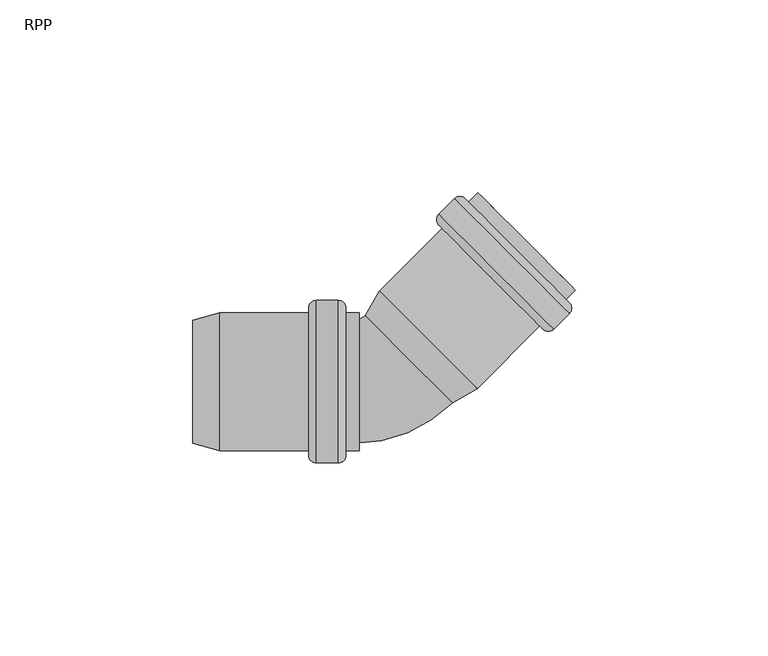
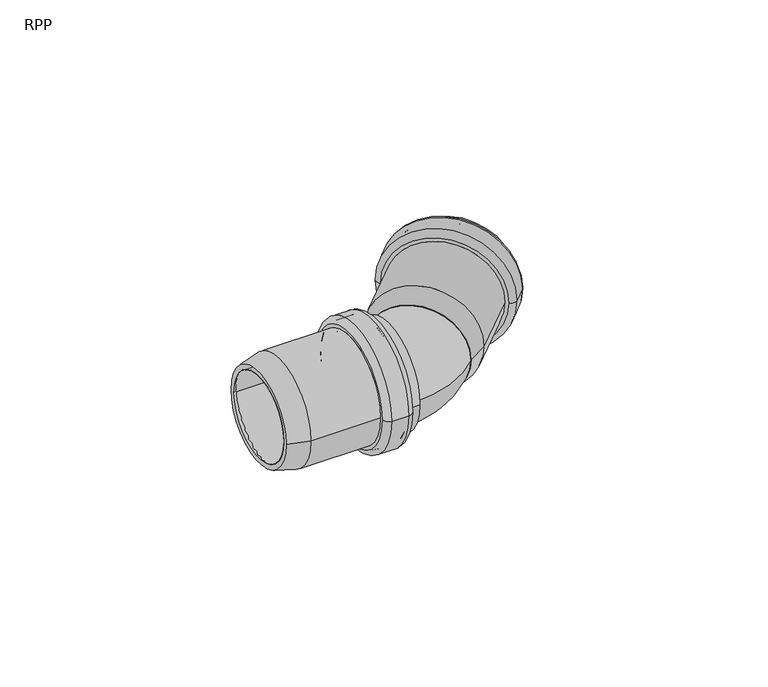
"""IFC4 building model written with IfcOpenShell, lengths in millimetres: pipe fitting geometry, RAUPIANO PLUS Bend : RPP."""

from ifc_helpers import new_model, si_unit, point, frame, origin, place, context, project, spatial, polyline, circle_curve, ellipse_curve, trimmed, source, transform, mapped, element, save
from ifc_brep_helpers import plane_surface, cylinder_surface, revolved_surface, advanced_brep


def rpp_84a9ba76(model_context):
    return source(origin(), model_context, "Body", "AdvancedBrep", [
        advanced_brep(
        [(-18.5842712, -16.3, 0.0), (-18.5842712, 16.3, 0.0), (-42.9827307, 16.3, 0.0), (-42.9827307, -16.3, 0.0), (-18.0842712, -19.5, 0.0), (-18.0842712, 19.5, 0.0), (-18.5842712, 19.0, 0.0), (-18.5842712, -19.0, 0.0), (-12.5842712, -19.5, 0.0), (-12.5842712, 19.5, 0.0), (-12.0842712, -19.0, 0.0), (-12.0842712, 19.0, 0.0), (-7.0842712, -16.3, 0.0), (-7.0842712, 16.3, 0.0), (-12.0842712, 16.3, 0.0), (-12.0842712, -16.3, 0.0), (-10.4842712, -17.9, 0.0), (-10.4842712, 17.9, 0.0), (-7.0842712, 17.9, 0.0), (-7.0842712, -17.9, 0.0), (-12.4842712, -21.1, 0.0), (-12.4842712, 21.1, 0.0), (-10.4842712, 19.1, 0.0), (-10.4842712, -19.1, 0.0), (-18.1842712, -21.1, 0.0), (-18.1842712, 21.1, 0.0), (-20.1842712, -19.1, 0.0), (-20.1842712, 19.1, 0.0), (-43.1933747, -17.9, 0.0), (-43.1933747, 17.9, 0.0), (-20.1842712, 17.9, 0.0), (-20.1842712, -17.9, 0.0), (-50.2842712, -16.0, 0.0), (-50.2842712, 16.0, 0.0), (-50.2842712, 14.3435581, 0.0), (-50.2842712, -14.3435581, 0.0)],
        [
            (0, 1, circle_curve(frame((-18.5842712, 0.0, 0.0), z_axis=(1.0, 0.0, 0.0), x_axis=(0.0, 1.0, 0.0)), 16.3)),
            (1, 2),
            (2, 3, circle_curve(frame((-42.9827307, 0.0, 0.0), z_axis=(-1.0, 0.0, 0.0), x_axis=(0.0, 1.0, 0.0)), 16.3)),
            (3, 0),
            (4, 5, circle_curve(frame((-18.0842712, 0.0, 0.0), z_axis=(1.0, 0.0, 0.0), x_axis=(0.0, 1.0, 0.0)), 19.5)),
            (5, 6, circle_curve(frame((-18.0842712, 19.0, 0.0), z_axis=(0.0, 0.0, 1.0), x_axis=(0.0, -1.0, 0.0)), 0.5)),
            (6, 7, circle_curve(frame((-18.5842712, 0.0, 0.0), z_axis=(-1.0, 0.0, 0.0), x_axis=(0.0, 1.0, 0.0)), 19.0)),
            (7, 4, circle_curve(frame((-18.0842712, -19.0, 0.0), z_axis=(0.0, 0.0, 1.0), x_axis=(0.0, 1.0, 0.0)), 0.5)),
            (8, 9, circle_curve(frame((-12.5842712, 0.0, 0.0), z_axis=(1.0, 0.0, 0.0), x_axis=(0.0, 1.0, 0.0)), 19.5)),
            (9, 5),
            (4, 8),
            (10, 11, circle_curve(frame((-12.0842712, 0.0, 0.0), z_axis=(1.0, 0.0, 0.0), x_axis=(0.0, 1.0, 0.0)), 19.0)),
            (11, 9, circle_curve(frame((-12.5842712, 19.0, 0.0), z_axis=(0.0, 0.0, 1.0), x_axis=(0.0, -1.0, 0.0)), 0.5)),
            (8, 10, circle_curve(frame((-12.5842712, -19.0, 0.0), z_axis=(0.0, 0.0, 1.0), x_axis=(0.0, 1.0, 0.0)), 0.5)),
            (12, 13, circle_curve(frame((-7.0842712, 0.0, 0.0), z_axis=(1.0, 0.0, 0.0), x_axis=(0.0, 1.0, 0.0)), 16.3)),
            (13, 14),
            (14, 15, circle_curve(frame((-12.0842712, 0.0, 0.0), z_axis=(-1.0, 0.0, 0.0), x_axis=(0.0, 1.0, 0.0)), 16.3)),
            (15, 12),
            (16, 17, circle_curve(frame((-10.4842712, 0.0, 0.0), z_axis=(1.0, 0.0, 0.0), x_axis=(0.0, 1.0, 0.0)), 17.9)),
            (17, 18),
            (18, 19, circle_curve(frame((-7.0842712, 0.0, 0.0), z_axis=(-1.0, 0.0, 0.0), x_axis=(0.0, 1.0, 0.0)), 17.9)),
            (19, 16),
            (20, 21, circle_curve(frame((-12.4842712, 0.0, 0.0), z_axis=(1.0, 0.0, 0.0), x_axis=(0.0, 1.0, 0.0)), 21.1)),
            (21, 22, circle_curve(frame((-12.4842712, 19.1, 0.0), z_axis=(0.0, 0.0, -1.0), x_axis=(0.0, -1.0, 0.0)), 2.0)),
            (22, 23, circle_curve(frame((-10.4842712, 0.0, 0.0), z_axis=(-1.0, 0.0, 0.0), x_axis=(0.0, 1.0, 0.0)), 19.1)),
            (23, 20, circle_curve(frame((-12.4842712, -19.1, 0.0), z_axis=(0.0, 0.0, -1.0), x_axis=(0.0, 1.0, 0.0)), 2.0)),
            (24, 25, circle_curve(frame((-18.1842712, 0.0, 0.0), z_axis=(1.0, 0.0, 0.0), x_axis=(0.0, 1.0, 0.0)), 21.1)),
            (25, 21),
            (20, 24),
            (26, 27, circle_curve(frame((-20.1842712, 0.0, 0.0), z_axis=(1.0, 0.0, 0.0), x_axis=(0.0, 1.0, 0.0)), 19.1)),
            (27, 25, circle_curve(frame((-18.1842712, 19.1, 0.0), z_axis=(0.0, 0.0, -1.0), x_axis=(0.0, -1.0, 0.0)), 2.0)),
            (24, 26, circle_curve(frame((-18.1842712, -19.1, 0.0), z_axis=(0.0, 0.0, -1.0), x_axis=(0.0, 1.0, 0.0)), 2.0)),
            (28, 29, circle_curve(frame((-43.1933747, 0.0, 0.0), z_axis=(1.0, 0.0, 0.0), x_axis=(0.0, 1.0, 0.0)), 17.9)),
            (29, 30),
            (30, 31, circle_curve(frame((-20.1842712, 0.0, 0.0), z_axis=(-1.0, 0.0, 0.0), x_axis=(0.0, 1.0, 0.0)), 17.9)),
            (31, 28),
            (32, 33, circle_curve(frame((-50.2842712, 0.0, 0.0), z_axis=(1.0, 0.0, 0.0), x_axis=(0.0, 1.0, 0.0)), 16.0)),
            (33, 29),
            (28, 32),
            (2, 34),
            (34, 35, circle_curve(frame((-50.2842712, 0.0, 0.0), z_axis=(-1.0, 0.0, 0.0), x_axis=(0.0, 1.0, 0.0)), 14.3435581)),
            (35, 3),
            (1, 0, circle_curve(frame((-18.5842712, 0.0, 0.0), z_axis=(1.0, 0.0, 0.0), x_axis=(0.0, -1.0, 0.0)), 16.3)),
            (3, 2, circle_curve(frame((-42.9827307, 0.0, 0.0), z_axis=(-1.0, 0.0, 0.0), x_axis=(0.0, -1.0, 0.0)), 16.3)),
            (6, 7, circle_curve(frame((-18.5842712, 0.0, 0.0), z_axis=(1.0, 0.0, 0.0), x_axis=(0.0, -1.0, 0.0)), 19.0)),
            (5, 4, circle_curve(frame((-18.0842712, 0.0, 0.0), z_axis=(1.0, 0.0, 0.0), x_axis=(0.0, -1.0, 0.0)), 19.5)),
            (9, 8, circle_curve(frame((-12.5842712, 0.0, 0.0), z_axis=(1.0, 0.0, 0.0), x_axis=(0.0, -1.0, 0.0)), 19.5)),
            (11, 10, circle_curve(frame((-12.0842712, 0.0, 0.0), z_axis=(1.0, 0.0, 0.0), x_axis=(0.0, -1.0, 0.0)), 19.0)),
            (14, 15, circle_curve(frame((-12.0842712, 0.0, 0.0), z_axis=(1.0, 0.0, 0.0), x_axis=(0.0, -1.0, 0.0)), 16.3)),
            (13, 12, circle_curve(frame((-7.0842712, 0.0, 0.0), z_axis=(1.0, 0.0, 0.0), x_axis=(0.0, -1.0, 0.0)), 16.3)),
            (18, 19, circle_curve(frame((-7.0842712, 0.0, 0.0), z_axis=(1.0, 0.0, 0.0), x_axis=(0.0, -1.0, 0.0)), 17.9)),
            (17, 16, circle_curve(frame((-10.4842712, 0.0, 0.0), z_axis=(1.0, 0.0, 0.0), x_axis=(0.0, -1.0, 0.0)), 17.9)),
            (22, 23, circle_curve(frame((-10.4842712, 0.0, 0.0), z_axis=(1.0, 0.0, 0.0), x_axis=(0.0, -1.0, 0.0)), 19.1)),
            (21, 20, circle_curve(frame((-12.4842712, 0.0, 0.0), z_axis=(1.0, 0.0, 0.0), x_axis=(0.0, -1.0, 0.0)), 21.1)),
            (25, 24, circle_curve(frame((-18.1842712, 0.0, 0.0), z_axis=(1.0, 0.0, 0.0), x_axis=(0.0, -1.0, 0.0)), 21.1)),
            (27, 26, circle_curve(frame((-20.1842712, 0.0, 0.0), z_axis=(1.0, 0.0, 0.0), x_axis=(0.0, -1.0, 0.0)), 19.1)),
            (30, 31, circle_curve(frame((-20.1842712, 0.0, 0.0), z_axis=(1.0, 0.0, 0.0), x_axis=(0.0, -1.0, 0.0)), 17.9)),
            (29, 28, circle_curve(frame((-43.1933747, 0.0, 0.0), z_axis=(1.0, 0.0, 0.0), x_axis=(0.0, -1.0, 0.0)), 17.9)),
            (33, 32, circle_curve(frame((-50.2842712, 0.0, 0.0), z_axis=(1.0, 0.0, 0.0), x_axis=(0.0, -1.0, 0.0)), 16.0)),
            (34, 35, circle_curve(frame((-50.2842712, 0.0, 0.0), z_axis=(1.0, 0.0, 0.0), x_axis=(0.0, -1.0, 0.0)), 14.3435581)),
        ],
        [
            revolved_surface(polyline([(-42.9827307, 16.3, 0.0), (-18.5842712, 16.3, 0.0)]), (-50.2842712, 0.0, 0.0), (-1.0, 0.0, 0.0)),
            revolved_surface(trimmed(ellipse_curve(frame((-18.0842712, 19.0, 0.0), z_axis=(0.0, 0.0, -1.0), x_axis=(0.0, -1.0, 0.0)), 0.5, 0.5), [point((-18.5842712, 19.0, 0.0))], [point((-18.0842712, 19.5, 0.0))], True, "CARTESIAN"), (-50.2842712, 0.0, 0.0), (-1.0, 0.0, 0.0)),
            revolved_surface(polyline([(-18.084271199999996, 19.5, 0.0), (-12.584271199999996, 19.5, 0.0)]), (-50.2842712, 0.0, 0.0), (-1.0, 0.0, 0.0)),
            revolved_surface(trimmed(ellipse_curve(frame((-12.5842712, 19.0, 0.0), z_axis=(0.0, 0.0, -1.0), x_axis=(0.0, -1.0, 0.0)), 0.5, 0.5), [point((-12.5842712, 19.5, 0.0))], [point((-12.0842712, 19.0, 0.0))], True, "CARTESIAN"), (-50.2842712, 0.0, 0.0), (-1.0, 0.0, 0.0)),
            revolved_surface(polyline([(-12.084271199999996, 16.3, 0.0), (-7.084271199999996, 16.3, 0.0)]), (-50.2842712, 0.0, 0.0), (-1.0, 0.0, 0.0)),
            cylinder_surface(frame((-50.2842712, 0.0, 0.0), z_axis=(-1.0, 0.0, 0.0), x_axis=(0.0, 1.0, 0.0)), 17.9),
            revolved_surface(trimmed(ellipse_curve(frame((-12.4842712, 19.1, 0.0), z_axis=(0.0, 0.0, 1.0), x_axis=(0.0, -1.0, 0.0)), 2.0, 2.0), [point((-10.4842712, 19.1, 0.0))], [point((-12.4842712, 21.1, 0.0))], True, "CARTESIAN"), (-50.2842712, 0.0, 0.0), (-1.0, 0.0, 0.0)),
            cylinder_surface(frame((-50.2842712, 0.0, 0.0), z_axis=(-1.0, 0.0, 0.0), x_axis=(0.0, 1.0, 0.0)), 21.1),
            revolved_surface(trimmed(ellipse_curve(frame((-18.1842712, 19.1, 0.0), z_axis=(0.0, 0.0, 1.0), x_axis=(0.0, -1.0, 0.0)), 2.0, 2.0), [point((-18.1842712, 21.1, 0.0))], [point((-20.1842712, 19.1, 0.0))], True, "CARTESIAN"), (-50.2842712, 0.0, 0.0), (-1.0, 0.0, 0.0)),
            revolved_surface(polyline([(-43.1933747, 17.9, 0.0), (-50.2842712, 16.0, 0.0)]), (-50.2842712, 0.0, 0.0), (-1.0, 0.0, 0.0)),
            revolved_surface(polyline([(-50.2842712, 14.3435581, 0.0), (-42.9827307, 16.3, 0.0)]), (-50.2842712, 0.0, 0.0), (-1.0, 0.0, 0.0)),
            revolved_surface(polyline([(-42.9827307, -16.3, 0.0), (-18.5842712, -16.3, 0.0)]), (-50.2842712, 0.0, 0.0), (-1.0, 0.0, 0.0)),
            plane_surface(frame((-18.5842712, 0.0, 0.0), z_axis=(1.0, 0.0, 0.0), x_axis=(0.0, -1.0, 0.0))),
            revolved_surface(trimmed(ellipse_curve(frame((-18.0842712, -19.0, 0.0), z_axis=(0.0, 0.0, 1.0), x_axis=(0.0, 1.0, 0.0)), 0.5, 0.5), [point((-18.5842712, -19.0, 0.0))], [point((-18.0842712, -19.5, 0.0))], True, "CARTESIAN"), (-50.2842712, 0.0, 0.0), (-1.0, 0.0, 0.0)),
            revolved_surface(polyline([(-18.084271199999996, -19.5, 0.0), (-12.584271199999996, -19.5, 0.0)]), (-50.2842712, 0.0, 0.0), (-1.0, 0.0, 0.0)),
            revolved_surface(trimmed(ellipse_curve(frame((-12.5842712, -19.0, 0.0), z_axis=(0.0, 0.0, 1.0), x_axis=(0.0, 1.0, 0.0)), 0.5, 0.5), [point((-12.5842712, -19.5, 0.0))], [point((-12.0842712, -19.0, 0.0))], True, "CARTESIAN"), (-50.2842712, 0.0, 0.0), (-1.0, 0.0, 0.0)),
            plane_surface(frame((-12.0842712, 0.0, 0.0), z_axis=(-1.0, 0.0, 0.0), x_axis=(0.0, -1.0, 0.0))),
            revolved_surface(polyline([(-12.084271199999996, -16.3, 0.0), (-7.084271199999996, -16.3, 0.0)]), (-50.2842712, 0.0, 0.0), (-1.0, 0.0, 0.0)),
            plane_surface(frame((-7.0842712, 0.0, 0.0), z_axis=(1.0, 0.0, 0.0), x_axis=(0.0, -1.0, 0.0))),
            cylinder_surface(frame((-50.2842712, 0.0, 0.0), z_axis=(-1.0, 0.0, 0.0), x_axis=(0.0, -1.0, 0.0)), 17.9),
            plane_surface(frame((-10.4842712, 0.0, 0.0), z_axis=(1.0, 0.0, 0.0), x_axis=(0.0, -1.0, 0.0))),
            revolved_surface(trimmed(ellipse_curve(frame((-12.4842712, -19.1, 0.0), z_axis=(0.0, 0.0, -1.0), x_axis=(0.0, 1.0, 0.0)), 2.0, 2.0), [point((-10.4842712, -19.1, 0.0))], [point((-12.4842712, -21.1, 0.0))], True, "CARTESIAN"), (-50.2842712, 0.0, 0.0), (-1.0, 0.0, 0.0)),
            cylinder_surface(frame((-50.2842712, 0.0, 0.0), z_axis=(-1.0, 0.0, 0.0), x_axis=(0.0, -1.0, 0.0)), 21.1),
            revolved_surface(trimmed(ellipse_curve(frame((-18.1842712, -19.1, 0.0), z_axis=(0.0, 0.0, -1.0), x_axis=(0.0, 1.0, 0.0)), 2.0, 2.0), [point((-18.1842712, -21.1, 0.0))], [point((-20.1842712, -19.1, 0.0))], True, "CARTESIAN"), (-50.2842712, 0.0, 0.0), (-1.0, 0.0, 0.0)),
            plane_surface(frame((-20.1842712, 0.0, 0.0), z_axis=(-1.0, 0.0, 0.0), x_axis=(0.0, -1.0, 0.0))),
            revolved_surface(polyline([(-43.1933747, -17.9, 0.0), (-50.2842712, -16.0, 0.0)]), (-50.2842712, 0.0, 0.0), (-1.0, 0.0, 0.0)),
            plane_surface(frame((-50.2842712, 0.0, 0.0), z_axis=(-1.0, 0.0, 0.0), x_axis=(0.0, -1.0, 0.0))),
            revolved_surface(polyline([(-50.2842712, -14.3435581, 0.0), (-42.9827307, -16.3, 0.0)]), (-50.2842712, 0.0, 0.0), (-1.0, 0.0, 0.0)),
        ],
        [
            (0, [[1, 2, 3, 4]]),
            (1, [[5, 6, 7, 8]]),
            (2, [[9, 10, -5, 11]]),
            (3, [[12, 13, -9, 14]]),
            (4, [[15, 16, 17, 18]]),
            (5, [[19, 20, 21, 22]]),
            (6, [[23, 24, 25, 26]]),
            (7, [[27, 28, -23, 29]]),
            (8, [[30, 31, -27, 32]]),
            (5, [[33, 34, 35, 36]]),
            (9, [[37, 38, -33, 39]]),
            (10, [[-3, 40, 41, 42]]),
            (11, [[43, -4, 44, -2]]),
            (12, [[45, -7], [-43, -1]]),
            (13, [[46, -8, -45, -6]]),
            (14, [[47, -11, -46, -10]]),
            (15, [[48, -14, -47, -13]]),
            (16, [[-48, -12], [49, -17]]),
            (17, [[50, -18, -49, -16]]),
            (18, [[51, -21], [-50, -15]]),
            (19, [[52, -22, -51, -20]]),
            (20, [[53, -25], [-52, -19]]),
            (21, [[54, -26, -53, -24]]),
            (22, [[55, -29, -54, -28]]),
            (23, [[56, -32, -55, -31]]),
            (24, [[-56, -30], [57, -35]]),
            (19, [[58, -36, -57, -34]]),
            (25, [[59, -39, -58, -38]]),
            (26, [[-59, -37], [60, -41]]),
            (27, [[-44, -42, -60, -40]]),
        ],
    ),
        advanced_brep(
        [(16.0002916, -4.2845628, 0.0), (-4.2845628, 16.0002916, 0.0), (-0.5050073, 22.5466737, 0.0), (22.5466737, -0.5050073, 0.0), (23.5290968, -1.785326, 0.0), (-1.785326, 23.5290968, 0.0), (-5.4558441, 17.1715729, 0.0), (17.1715729, -5.4558441, 0.0), (39.7989899, 14.4845671, 0.0), (14.4845671, 39.7989899, 0.0), (47.5064538, 17.6665476, 0.0), (17.6665476, 47.5064538, 0.0), (13.636039, 43.4759451, 0.0), (43.4759451, 13.636039, 0.0), (49.0620887, 23.7476659, 0.0), (23.7476659, 49.0620887, 0.0), (21.3435029, 46.6579257, 0.0), (46.6579257, 21.3435029, 0.0), (44.395184, 21.3435029, 0.0), (21.3435029, 44.395184, 0.0), (24.8790368, 47.9307179, 0.0), (47.9307179, 24.8790368, 0.0), (42.415285, 14.8381205, 0.0), (14.8381205, 42.415285, 0.0), (18.7272078, 46.3043723, 0.0), (46.3043723, 18.7272078, 0.0), (16.7473088, 39.7989899, 0.0), (39.7989899, 16.7473088, 0.0), (13.636039, 40.647518, 0.0), (40.647518, 13.636039, 0.0), (47.5064538, 20.4949747, 0.0), (20.4949747, 47.5064538, 0.0), (19.4343146, 46.3043723, 0.0), (46.3043723, 19.4343146, 0.0), (41.7081782, 14.8381205, 0.0), (14.8381205, 41.7081782, 0.0)],
        [
            (0, 1, circle_curve(frame((5.8578644, 5.8578644, 0.0), z_axis=(-0.7071067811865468, -0.7071067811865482, 0.0), x_axis=(-0.7071067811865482, 0.7071067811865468, 0.0)), 14.3435581)),
            (1, 2),
            (2, 3, circle_curve(frame((11.0208332, 11.0208332, 0.0), z_axis=(0.7071067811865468, 0.7071067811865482, 0.0), x_axis=(-0.7071067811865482, 0.7071067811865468, 0.0)), 16.3)),
            (3, 0),
            (4, 5, circle_curve(frame((10.8718854, 10.8718854, 0.0), z_axis=(-0.7071067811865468, -0.7071067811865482, 0.0), x_axis=(-0.7071067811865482, 0.7071067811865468, 0.0)), 17.9)),
            (5, 6),
            (6, 7, circle_curve(frame((5.8578644, 5.8578644, 0.0), z_axis=(0.7071067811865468, 0.7071067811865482, 0.0), x_axis=(-0.7071067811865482, 0.7071067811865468, 0.0)), 16.0)),
            (7, 4),
            (8, 9, circle_curve(frame((27.1417785, 27.1417785, 0.0), z_axis=(-0.7071067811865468, -0.7071067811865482, 0.0), x_axis=(-0.7071067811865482, 0.7071067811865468, 0.0)), 17.9)),
            (9, 5),
            (4, 8),
            (10, 11, circle_curve(frame((32.5865007, 32.5865007, 0.0), z_axis=(-0.7071067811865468, -0.7071067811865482, 0.0), x_axis=(-0.7071067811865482, 0.7071067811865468, 0.0)), 21.1)),
            (11, 12),
            (12, 13, circle_curve(frame((28.5559921, 28.5559921, 0.0), z_axis=(0.7071067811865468, 0.7071067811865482, 0.0), x_axis=(-0.7071067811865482, 0.7071067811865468, 0.0)), 21.1)),
            (13, 10),
            (14, 15, circle_curve(frame((36.4048773, 36.4048773, 0.0), z_axis=(-0.7071067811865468, -0.7071067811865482, 0.0), x_axis=(-0.7071067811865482, 0.7071067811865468, 0.0)), 17.9)),
            (15, 16),
            (16, 17, circle_curve(frame((34.0007143, 34.0007143, 0.0), z_axis=(0.7071067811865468, 0.7071067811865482, 0.0), x_axis=(-0.7071067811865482, 0.7071067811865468, 0.0)), 17.9)),
            (17, 14),
            (18, 19, circle_curve(frame((32.8693434, 32.8693434, 0.0), z_axis=(-0.7071067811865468, -0.7071067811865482, 0.0), x_axis=(-0.7071067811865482, 0.7071067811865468, 0.0)), 16.3)),
            (19, 20),
            (20, 21, circle_curve(frame((36.4048773, 36.4048773, 0.0), z_axis=(0.7071067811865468, 0.7071067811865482, 0.0), x_axis=(-0.7071067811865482, 0.7071067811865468, 0.0)), 16.3)),
            (21, 18),
            (22, 23, circle_curve(frame((28.6267027, 28.6267027, 0.0), z_axis=(-0.7071067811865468, -0.7071067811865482, 0.0), x_axis=(-0.7071067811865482, 0.7071067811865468, 0.0)), 19.5)),
            (23, 24),
            (24, 25, circle_curve(frame((32.51579, 32.51579, 0.0), z_axis=(0.7071067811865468, 0.7071067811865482, 0.0), x_axis=(-0.7071067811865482, 0.7071067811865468, 0.0)), 19.5)),
            (25, 22),
            (2, 26),
            (26, 27, circle_curve(frame((28.2731493, 28.2731493, 0.0), z_axis=(0.7071067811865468, 0.7071067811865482, 0.0), x_axis=(-0.7071067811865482, 0.7071067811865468, 0.0)), 16.3)),
            (27, 3),
            (1, 0, circle_curve(frame((5.8578644, 5.8578644, 0.0), z_axis=(-0.7071067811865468, -0.7071067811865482, 0.0), x_axis=(0.7071067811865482, -0.7071067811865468, 0.0)), 14.3435581)),
            (3, 2, circle_curve(frame((11.0208332, 11.0208332, 0.0), z_axis=(0.7071067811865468, 0.7071067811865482, 0.0), x_axis=(0.7071067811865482, -0.7071067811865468, 0.0)), 16.3)),
            (6, 7, circle_curve(frame((5.8578644, 5.8578644, 0.0), z_axis=(-0.7071067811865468, -0.7071067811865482, 0.0), x_axis=(0.7071067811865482, -0.7071067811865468, 0.0)), 16.0)),
            (5, 4, circle_curve(frame((10.8718854, 10.8718854, 0.0), z_axis=(-0.7071067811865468, -0.7071067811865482, 0.0), x_axis=(0.7071067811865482, -0.7071067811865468, 0.0)), 17.9)),
            (9, 8, circle_curve(frame((27.1417785, 27.1417785, 0.0), z_axis=(-0.7071067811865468, -0.7071067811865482, 0.0), x_axis=(0.7071067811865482, -0.7071067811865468, 0.0)), 17.9)),
            (28, 29, circle_curve(frame((27.1417785, 27.1417785, 0.0), z_axis=(-0.7071067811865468, -0.7071067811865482, 0.0), x_axis=(0.7071067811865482, -0.7071067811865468, 0.0)), 19.1)),
            (29, 28, circle_curve(frame((27.1417785, 27.1417785, 0.0), z_axis=(-0.7071067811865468, -0.7071067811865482, 0.0), x_axis=(-0.7071067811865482, 0.7071067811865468, 0.0)), 19.1)),
            (11, 10, circle_curve(frame((32.5865007, 32.5865007, 0.0), z_axis=(-0.7071067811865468, -0.7071067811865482, 0.0), x_axis=(0.7071067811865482, -0.7071067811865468, 0.0)), 21.1)),
            (13, 12, circle_curve(frame((28.5559921, 28.5559921, 0.0), z_axis=(0.7071067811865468, 0.7071067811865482, 0.0), x_axis=(0.7071067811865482, -0.7071067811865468, 0.0)), 21.1)),
            (30, 31, circle_curve(frame((34.0007143, 34.0007143, 0.0), z_axis=(0.7071067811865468, 0.7071067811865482, 0.0), x_axis=(0.7071067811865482, -0.7071067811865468, 0.0)), 19.1)),
            (31, 30, circle_curve(frame((34.0007143, 34.0007143, 0.0), z_axis=(0.7071067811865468, 0.7071067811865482, 0.0), x_axis=(-0.7071067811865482, 0.7071067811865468, 0.0)), 19.1)),
            (16, 17, circle_curve(frame((34.0007143, 34.0007143, 0.0), z_axis=(-0.7071067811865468, -0.7071067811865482, 0.0), x_axis=(0.7071067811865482, -0.7071067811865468, 0.0)), 17.9)),
            (15, 14, circle_curve(frame((36.4048773, 36.4048773, 0.0), z_axis=(-0.7071067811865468, -0.7071067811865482, 0.0), x_axis=(0.7071067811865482, -0.7071067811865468, 0.0)), 17.9)),
            (20, 21, circle_curve(frame((36.4048773, 36.4048773, 0.0), z_axis=(-0.7071067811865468, -0.7071067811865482, 0.0), x_axis=(0.7071067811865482, -0.7071067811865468, 0.0)), 16.3)),
            (19, 18, circle_curve(frame((32.8693434, 32.8693434, 0.0), z_axis=(-0.7071067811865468, -0.7071067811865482, 0.0), x_axis=(0.7071067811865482, -0.7071067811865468, 0.0)), 16.3)),
            (32, 33, circle_curve(frame((32.8693434, 32.8693434, 0.0), z_axis=(-0.7071067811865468, -0.7071067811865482, 0.0), x_axis=(0.7071067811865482, -0.7071067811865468, 0.0)), 19.0)),
            (33, 32, circle_curve(frame((32.8693434, 32.8693434, 0.0), z_axis=(-0.7071067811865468, -0.7071067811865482, 0.0), x_axis=(-0.7071067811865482, 0.7071067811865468, 0.0)), 19.0)),
            (23, 22, circle_curve(frame((28.6267027, 28.6267027, 0.0), z_axis=(-0.7071067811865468, -0.7071067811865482, 0.0), x_axis=(0.7071067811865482, -0.7071067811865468, 0.0)), 19.5)),
            (25, 24, circle_curve(frame((32.51579, 32.51579, 0.0), z_axis=(0.7071067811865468, 0.7071067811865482, 0.0), x_axis=(0.7071067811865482, -0.7071067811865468, 0.0)), 19.5)),
            (34, 35, circle_curve(frame((28.2731493, 28.2731493, 0.0), z_axis=(0.7071067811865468, 0.7071067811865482, 0.0), x_axis=(0.7071067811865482, -0.7071067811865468, 0.0)), 19.0)),
            (35, 34, circle_curve(frame((28.2731493, 28.2731493, 0.0), z_axis=(0.7071067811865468, 0.7071067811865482, 0.0), x_axis=(-0.7071067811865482, 0.7071067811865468, 0.0)), 19.0)),
            (26, 27, circle_curve(frame((28.2731493, 28.2731493, 0.0), z_axis=(-0.7071067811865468, -0.7071067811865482, 0.0), x_axis=(0.7071067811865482, -0.7071067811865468, 0.0)), 16.3)),
            (12, 28, circle_curve(frame((15.0502525, 42.0617316, 0.0), z_axis=(0.0, 0.0, 1.0), x_axis=(0.7071067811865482, -0.7071067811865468, 0.0)), 2.0)),
            (29, 13, circle_curve(frame((42.0617316, 15.0502525, 0.0), z_axis=(0.0, 0.0, 1.0), x_axis=(-0.7071067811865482, 0.7071067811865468, 0.0)), 2.0)),
            (31, 11, circle_curve(frame((19.0807612, 46.0922402, 0.0), z_axis=(0.0, 0.0, 1.0), x_axis=(0.7071067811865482, -0.7071067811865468, 0.0)), 2.0)),
            (10, 30, circle_curve(frame((46.0922402, 19.0807612, 0.0), z_axis=(0.0, 0.0, 1.0), x_axis=(-0.7071067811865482, 0.7071067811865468, 0.0)), 2.0)),
            (24, 32, circle_curve(frame((19.0807612, 45.9508189, 0.0), z_axis=(0.0, 0.0, -1.0), x_axis=(0.7071067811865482, -0.7071067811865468, 0.0)), 0.5)),
            (33, 25, circle_curve(frame((45.9508189, 19.0807612, 0.0), z_axis=(0.0, 0.0, -1.0), x_axis=(-0.7071067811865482, 0.7071067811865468, 0.0)), 0.5)),
            (35, 23, circle_curve(frame((15.1916739, 42.0617316, 0.0), z_axis=(0.0, 0.0, -1.0), x_axis=(0.7071067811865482, -0.7071067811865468, 0.0)), 0.5)),
            (22, 34, circle_curve(frame((42.0617316, 15.1916739, 0.0), z_axis=(0.0, 0.0, -1.0), x_axis=(-0.7071067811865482, 0.7071067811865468, 0.0)), 0.5)),
        ],
        [
            revolved_surface(polyline([(-0.5050073, 22.5466737, 0.0), (-4.2845628, 16.0002916, 0.0)]), (5.8578644, 5.8578644, 0.0), (0.7071067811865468, 0.7071067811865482, 0.0)),
            revolved_surface(polyline([(-5.4558441, 17.1715729, 0.0), (-1.785326, 23.5290968, 0.0)]), (5.8578644, 5.8578644, 0.0), (0.7071067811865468, 0.7071067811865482, 0.0)),
            cylinder_surface(frame((5.8578644, 5.8578644, 0.0), z_axis=(0.7071067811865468, 0.7071067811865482, 0.0), x_axis=(-0.7071067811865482, 0.7071067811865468, 0.0)), 17.9),
            cylinder_surface(frame((5.8578644, 5.8578644, 0.0), z_axis=(0.7071067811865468, 0.7071067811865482, 0.0), x_axis=(-0.7071067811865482, 0.7071067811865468, 0.0)), 21.1),
            revolved_surface(polyline([(24.87903681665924, 47.930717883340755, 0.0), (21.343502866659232, 44.39518393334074, 0.0)]), (5.8578644, 5.8578644, 0.0), (0.7071067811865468, 0.7071067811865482, 0.0)),
            revolved_surface(polyline([(18.727207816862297, 46.30437228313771, 0.0), (14.838120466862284, 42.415284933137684, 0.0)]), (5.8578644, 5.8578644, 0.0), (0.7071067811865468, 0.7071067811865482, 0.0)),
            revolved_surface(polyline([(16.74730881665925, 39.798989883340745, 0.0), (-0.5050073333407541, 22.546673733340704, 0.0)]), (5.8578644, 5.8578644, 0.0), (0.7071067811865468, 0.7071067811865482, 0.0)),
            revolved_surface(polyline([(22.5466737, -0.5050073, 0.0), (16.0002916, -4.2845628, 0.0)]), (5.8578644, 5.8578644, 0.0), (0.7071067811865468, 0.7071067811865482, 0.0)),
            plane_surface(frame((5.8578644, 5.8578644, 0.0), z_axis=(-0.7071067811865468, -0.7071067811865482, 0.0), x_axis=(0.7071067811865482, -0.7071067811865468, 0.0))),
            revolved_surface(polyline([(17.1715729, -5.4558441, 0.0), (23.5290968, -1.785326, 0.0)]), (5.8578644, 5.8578644, 0.0), (0.7071067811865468, 0.7071067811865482, 0.0)),
            cylinder_surface(frame((5.8578644, 5.8578644, 0.0), z_axis=(0.7071067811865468, 0.7071067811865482, 0.0), x_axis=(0.7071067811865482, -0.7071067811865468, 0.0)), 17.9),
            plane_surface(frame((27.1417785, 27.1417785, 0.0), z_axis=(-0.7071067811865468, -0.7071067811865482, 0.0), x_axis=(0.7071067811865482, -0.7071067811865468, 0.0))),
            cylinder_surface(frame((5.8578644, 5.8578644, 0.0), z_axis=(0.7071067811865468, 0.7071067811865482, 0.0), x_axis=(0.7071067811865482, -0.7071067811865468, 0.0)), 21.1),
            plane_surface(frame((34.0007143, 34.0007143, 0.0), z_axis=(0.7071067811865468, 0.7071067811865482, 0.0), x_axis=(0.7071067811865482, -0.7071067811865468, 0.0))),
            plane_surface(frame((36.4048773, 36.4048773, 0.0), z_axis=(0.7071067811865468, 0.7071067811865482, 0.0), x_axis=(0.7071067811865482, -0.7071067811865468, 0.0))),
            revolved_surface(polyline([(47.93071788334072, 24.87903681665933, 0.0), (44.395183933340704, 21.343502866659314, 0.0)]), (5.8578644, 5.8578644, 0.0), (0.7071067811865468, 0.7071067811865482, 0.0)),
            plane_surface(frame((32.8693434, 32.8693434, 0.0), z_axis=(-0.7071067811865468, -0.7071067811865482, 0.0), x_axis=(0.7071067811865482, -0.7071067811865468, 0.0))),
            revolved_surface(polyline([(46.30437228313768, 18.727207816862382, 0.0), (42.41528493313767, 14.838120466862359, 0.0)]), (5.8578644, 5.8578644, 0.0), (0.7071067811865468, 0.7071067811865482, 0.0)),
            plane_surface(frame((28.2731493, 28.2731493, 0.0), z_axis=(0.7071067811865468, 0.7071067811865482, 0.0), x_axis=(0.7071067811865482, -0.7071067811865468, 0.0))),
            revolved_surface(polyline([(39.798989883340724, 16.74730881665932, 0.0), (22.54667373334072, -0.5050073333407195, 0.0)]), (5.8578644, 5.8578644, 0.0), (0.7071067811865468, 0.7071067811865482, 0.0)),
            revolved_surface(trimmed(ellipse_curve(frame((15.0502525, 42.0617316, 0.0), z_axis=(0.0, 0.0, -1.0), x_axis=(0.7071067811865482, -0.7071067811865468, 0.0)), 2.0, 2.0), [point((13.636039, 40.647518, 0.0))], [point((13.636039, 43.4759451, 0.0))], True, "CARTESIAN"), (5.8578644, 5.8578644, 0.0), (0.7071067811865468, 0.7071067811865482, 0.0)),
            revolved_surface(trimmed(ellipse_curve(frame((19.0807612, 46.0922402, 0.0), z_axis=(0.0, 0.0, -1.0), x_axis=(0.7071067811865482, -0.7071067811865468, 0.0)), 2.0, 2.0), [point((17.6665476, 47.5064538, 0.0))], [point((20.4949747, 47.5064538, 0.0))], True, "CARTESIAN"), (5.8578644, 5.8578644, 0.0), (0.7071067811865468, 0.7071067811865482, 0.0)),
            revolved_surface(trimmed(ellipse_curve(frame((19.0807612, 45.9508189, 0.0), z_axis=(0.0, 0.0, 1.0), x_axis=(0.7071067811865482, -0.7071067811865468, 0.0)), 0.5, 0.5), [point((19.4343146, 46.3043723, 0.0))], [point((18.7272078, 46.3043723, 0.0))], True, "CARTESIAN"), (5.8578644, 5.8578644, 0.0), (0.7071067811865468, 0.7071067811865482, 0.0)),
            revolved_surface(trimmed(ellipse_curve(frame((15.1916739, 42.0617316, 0.0), z_axis=(0.0, 0.0, 1.0), x_axis=(0.7071067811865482, -0.7071067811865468, 0.0)), 0.5, 0.5), [point((14.8381205, 42.415285, 0.0))], [point((14.8381205, 41.7081782, 0.0))], True, "CARTESIAN"), (5.8578644, 5.8578644, 0.0), (0.7071067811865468, 0.7071067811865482, 0.0)),
            revolved_surface(trimmed(ellipse_curve(frame((42.0617316, 15.0502525, 0.0), z_axis=(0.0, 0.0, 1.0), x_axis=(-0.7071067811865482, 0.7071067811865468, 0.0)), 2.0, 2.0), [point((40.647518, 13.636039, 0.0))], [point((43.4759451, 13.636039, 0.0))], True, "CARTESIAN"), (5.8578644, 5.8578644, 0.0), (0.7071067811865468, 0.7071067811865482, 0.0)),
            revolved_surface(trimmed(ellipse_curve(frame((46.0922402, 19.0807612, 0.0), z_axis=(0.0, 0.0, 1.0), x_axis=(-0.7071067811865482, 0.7071067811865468, 0.0)), 2.0, 2.0), [point((47.5064538, 17.6665476, 0.0))], [point((47.5064538, 20.4949747, 0.0))], True, "CARTESIAN"), (5.8578644, 5.8578644, 0.0), (0.7071067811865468, 0.7071067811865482, 0.0)),
            revolved_surface(trimmed(ellipse_curve(frame((45.9508189, 19.0807612, 0.0), z_axis=(0.0, 0.0, -1.0), x_axis=(-0.7071067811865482, 0.7071067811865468, 0.0)), 0.5, 0.5), [point((46.3043723, 19.4343146, 0.0))], [point((46.3043723, 18.7272078, 0.0))], True, "CARTESIAN"), (5.8578644, 5.8578644, 0.0), (0.7071067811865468, 0.7071067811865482, 0.0)),
            revolved_surface(trimmed(ellipse_curve(frame((42.0617316, 15.1916739, 0.0), z_axis=(0.0, 0.0, -1.0), x_axis=(-0.7071067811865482, 0.7071067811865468, 0.0)), 0.5, 0.5), [point((42.415285, 14.8381205, 0.0))], [point((41.7081782, 14.8381205, 0.0))], True, "CARTESIAN"), (5.8578644, 5.8578644, 0.0), (0.7071067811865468, 0.7071067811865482, 0.0)),
        ],
        [
            (0, [[1, 2, 3, 4]]),
            (1, [[5, 6, 7, 8]]),
            (2, [[9, 10, -5, 11]]),
            (3, [[12, 13, 14, 15]]),
            (2, [[16, 17, 18, 19]]),
            (4, [[20, 21, 22, 23]]),
            (5, [[24, 25, 26, 27]]),
            (6, [[-3, 28, 29, 30]]),
            (7, [[31, -4, 32, -2]]),
            (8, [[33, -7], [-31, -1]]),
            (9, [[34, -8, -33, -6]]),
            (10, [[35, -11, -34, -10]]),
            (11, [[36, 37], [-35, -9]]),
            (12, [[38, -15, 39, -13]]),
            (13, [[40, 41], [42, -18]]),
            (10, [[43, -19, -42, -17]]),
            (14, [[-43, -16], [44, -22]]),
            (15, [[45, -23, -44, -21]]),
            (16, [[46, 47], [-45, -20]]),
            (17, [[48, -27, 49, -25]]),
            (18, [[50, 51], [52, -29]]),
            (19, [[-32, -30, -52, -28]]),
            (20, [[-14, 53, -37, 54]]),
            (21, [[-41, 55, -12, 56]]),
            (22, [[-26, 57, -47, 58]]),
            (23, [[-51, 59, -24, 60]]),
            (24, [[-39, -54, -36, -53]]),
            (25, [[-40, -56, -38, -55]]),
            (26, [[-49, -58, -46, -57]]),
            (27, [[-50, -60, -48, -59]]),
        ],
    ),
        advanced_brep(
        [(-8.2842712, 14.2, 0.0), (-8.2842712, -14.2, 0.0), (-50.2842712, -14.2, 0.0), (-50.2842712, 14.2, 0.0), (-46.5522204, 16.0, 0.0), (-46.5522204, -16.0, 0.0), (-8.2842712, -16.0, 0.0), (-8.2842712, 16.0, 0.0), (-50.2842712, 15.0, 0.0), (-50.2842712, -15.0, 0.0)],
        [
            (0, 1, circle_curve(frame((-8.2842712, 0.0, 0.0), z_axis=(1.0, 0.0, 0.0), x_axis=(0.0, -1.0, 0.0)), 14.2)),
            (1, 2),
            (2, 3, circle_curve(frame((-50.2842712, 0.0, 0.0), z_axis=(-1.0, 0.0, 0.0), x_axis=(0.0, -1.0, 0.0)), 14.2)),
            (3, 0),
            (4, 5, circle_curve(frame((-46.5522204, 0.0, 0.0), z_axis=(1.0, 0.0, 0.0), x_axis=(0.0, -1.0, 0.0)), 16.0)),
            (5, 6),
            (6, 7, circle_curve(frame((-8.2842712, 0.0, 0.0), z_axis=(-1.0, 0.0, 0.0), x_axis=(0.0, -1.0, 0.0)), 16.0)),
            (7, 4),
            (8, 9, circle_curve(frame((-50.2842712, 0.0, 0.0), z_axis=(1.0, 0.0, 0.0), x_axis=(0.0, -1.0, 0.0)), 15.0)),
            (9, 5),
            (4, 8),
            (1, 0, circle_curve(frame((-8.2842712, 0.0, 0.0), z_axis=(1.0, 0.0, 0.0), x_axis=(0.0, 1.0, 0.0)), 14.2)),
            (3, 2, circle_curve(frame((-50.2842712, 0.0, 0.0), z_axis=(-1.0, 0.0, 0.0), x_axis=(0.0, 1.0, 0.0)), 14.2)),
            (6, 7, circle_curve(frame((-8.2842712, 0.0, 0.0), z_axis=(1.0, 0.0, 0.0), x_axis=(0.0, 1.0, 0.0)), 16.0)),
            (5, 4, circle_curve(frame((-46.5522204, 0.0, 0.0), z_axis=(1.0, 0.0, 0.0), x_axis=(0.0, 1.0, 0.0)), 16.0)),
            (9, 8, circle_curve(frame((-50.2842712, 0.0, 0.0), z_axis=(1.0, 0.0, 0.0), x_axis=(0.0, 1.0, 0.0)), 15.0)),
        ],
        [
            revolved_surface(polyline([(-50.2842712, -14.2, 0.0), (-8.2842712, -14.2, 0.0)]), (-8.2842712, 0.0, 0.0), (-1.0, 0.0, 0.0)),
            cylinder_surface(frame((-8.2842712, 0.0, 0.0), z_axis=(-1.0, 0.0, 0.0), x_axis=(0.0, -1.0, 0.0)), 16.0),
            revolved_surface(polyline([(-46.5522204, -16.0, 0.0), (-50.2842712, -15.0, 0.0)]), (-8.2842712, 0.0, 0.0), (-1.0, 0.0, 0.0)),
            revolved_surface(polyline([(-50.2842712, 14.2, 0.0), (-8.2842712, 14.2, 0.0)]), (-8.2842712, 0.0, 0.0), (-1.0, 0.0, 0.0)),
            plane_surface(frame((-8.2842712, 0.0, 0.0), z_axis=(1.0, 0.0, 0.0), x_axis=(0.0, 1.0, 0.0))),
            cylinder_surface(frame((-8.2842712, 0.0, 0.0), z_axis=(-1.0, 0.0, 0.0), x_axis=(0.0, 1.0, 0.0)), 16.0),
            revolved_surface(polyline([(-46.5522204, 16.0, 0.0), (-50.2842712, 15.0, 0.0)]), (-8.2842712, 0.0, 0.0), (-1.0, 0.0, 0.0)),
            plane_surface(frame((-50.2842712, 0.0, 0.0), z_axis=(-1.0, 0.0, 0.0), x_axis=(0.0, 1.0, 0.0))),
        ],
        [
            (0, [[1, 2, 3, 4]]),
            (1, [[5, 6, 7, 8]]),
            (2, [[9, 10, -5, 11]]),
            (3, [[12, -4, 13, -2]]),
            (4, [[14, -7], [-12, -1]]),
            (5, [[15, -8, -14, -6]]),
            (6, [[16, -11, -15, -10]]),
            (7, [[-16, -9], [-13, -3]]),
        ],
    ),
        advanced_brep(
        [(-8.2842712, -16.0, 0.0), (-8.2842712, 16.0, 0.0), (-8.2842712, -14.2, 0.0), (-8.2842712, 14.2, 0.0), (17.1715729, -5.4558441, 0.0), (-5.4558441, 17.1715729, 0.0), (15.8987807, -4.1830519, 0.0), (-4.1830519, 15.8987807, 0.0)],
        [
            (0, 1, circle_curve(frame((-8.2842712, 0.0, 0.0), z_axis=(-1.0, 0.0, 0.0), x_axis=(0.0, 1.0, 0.0)), 16.0)),
            (1, 0, circle_curve(frame((-8.2842712, 0.0, 0.0), z_axis=(-1.0, 0.0, 0.0), x_axis=(0.0, 1.0, 0.0)), 16.0)),
            (2, 3, circle_curve(frame((-8.2842712, 0.0, 0.0), z_axis=(1.0, 0.0, 0.0), x_axis=(0.0, 1.0, 0.0)), 14.2)),
            (3, 2, circle_curve(frame((-8.2842712, 0.0, 0.0), z_axis=(1.0, 0.0, 0.0), x_axis=(0.0, 1.0, 0.0)), 14.2)),
            (4, 5, circle_curve(frame((5.8578644, 5.8578644, 0.0), z_axis=(0.7071067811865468, 0.7071067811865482, 0.0), x_axis=(-0.7071067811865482, 0.7071067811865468, 0.0)), 16.0)),
            (5, 4, circle_curve(frame((5.8578644, 5.8578644, 0.0), z_axis=(0.7071067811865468, 0.7071067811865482, 0.0), x_axis=(-0.7071067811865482, 0.7071067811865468, 0.0)), 16.0)),
            (6, 7, circle_curve(frame((5.8578644, 5.8578644, 0.0), z_axis=(-0.7071067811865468, -0.7071067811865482, 0.0), x_axis=(-0.7071067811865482, 0.7071067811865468, 0.0)), 14.2)),
            (7, 6, circle_curve(frame((5.8578644, 5.8578644, 0.0), z_axis=(-0.7071067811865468, -0.7071067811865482, 0.0), x_axis=(-0.7071067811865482, 0.7071067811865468, 0.0)), 14.2)),
            (7, 3, circle_curve(frame((-8.2842712, 20.0, 0.0), z_axis=(0.0, 0.0, -1.0), x_axis=(0.0, -1.0, 0.0)), 5.8)),
            (2, 6, circle_curve(frame((-8.2842712, 20.0, 0.0), z_axis=(0.0, 0.0, 1.0), x_axis=(0.0, -1.0, 0.0)), 34.2)),
            (5, 1, circle_curve(frame((-8.2842712, 20.0, 0.0), z_axis=(0.0, 0.0, -1.0), x_axis=(0.0, -1.0, 0.0)), 4.0)),
            (0, 4, circle_curve(frame((-8.2842712, 20.0, 0.0), z_axis=(0.0, 0.0, 1.0), x_axis=(0.0, -1.0, 0.0)), 36.0)),
        ],
        [
            plane_surface(frame((-8.2842712, 0.0, 0.0), z_axis=(-1.0, 0.0, 0.0), x_axis=(0.0, 0.0, 1.0))),
            plane_surface(frame((5.8578644, 5.8578644, 0.0), z_axis=(0.7071067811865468, 0.7071067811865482, 0.0), x_axis=(0.0, 0.0, 1.0))),
            revolved_surface(trimmed(ellipse_curve(frame((-8.2842712, 0.0, 0.0), z_axis=(1.0, 0.0, 0.0), x_axis=(0.0, 1.0, 0.0)), 14.2, 14.2), [point((-8.2842712, -14.2, 0.0))], [point((-8.2842712, 14.2, 0.0))], True, "CARTESIAN"), (-8.2842712, 20.0, 0.0), (0.0, 0.0, 1.0)),
            revolved_surface(trimmed(ellipse_curve(frame((-8.2842712, 0.0, 0.0), z_axis=(1.0, 0.0, 0.0), x_axis=(0.0, 1.0, 0.0)), 14.2, 14.2), [point((-8.2842712, 14.2, 0.0))], [point((-8.2842712, -14.2, 0.0))], True, "CARTESIAN"), (-8.2842712, 20.0, 0.0), (0.0, 0.0, 1.0)),
            revolved_surface(trimmed(ellipse_curve(frame((-8.2842712, 0.0, 0.0), z_axis=(-1.0, 0.0, 0.0), x_axis=(0.0, 1.0, 0.0)), 16.0, 16.0), [point((-8.2842712, -16.0, 0.0))], [point((-8.2842712, 16.0, 0.0))], True, "CARTESIAN"), (-8.2842712, 20.0, 0.0), (0.0, 0.0, 1.0)),
            revolved_surface(trimmed(ellipse_curve(frame((-8.2842712, 0.0, 0.0), z_axis=(-1.0, 0.0, 0.0), x_axis=(0.0, 1.0, 0.0)), 16.0, 16.0), [point((-8.2842712, 16.0, 0.0))], [point((-8.2842712, -16.0, 0.0))], True, "CARTESIAN"), (-8.2842712, 20.0, 0.0), (0.0, 0.0, 1.0)),
        ],
        [
            (0, [[1, 2], [3, 4]]),
            (1, [[5, 6], [7, 8]]),
            (2, [[9, -3, 10, -8]]),
            (3, [[-10, -4, -9, -7]]),
            (4, [[11, -1, 12, -6]]),
            (5, [[-12, -2, -11, -5]]),
        ],
    ),
    ])


if __name__ == "__main__":
    model = new_model("IFC4")
    model_context = context("Model", 3, world=origin())
    ifc_project = project(units=[si_unit("LENGTHUNIT", "METRE", prefix="MILLI")], contexts=[model_context])
    site = spatial("IfcSite", under=ifc_project)
    building = spatial("IfcBuilding", under=site)
    placement = place(None, origin())
    rpp_shape = rpp_84a9ba76(model_context)
    element("IfcPipeFitting", 1, ObjectType="RAUPIANO PLUS Bend : RPP", at=placement, inside=building, context=model_context, shape_type="MappedRepresentation", body=[
        mapped(rpp_shape, transform((0.0, 0.0, 0.0), x_axis=(1.0, 0.0, 0.0), y_axis=(0.0, 1.0, 0.0), z_axis=(0.0, 0.0, 1.0))),
    ])
    save(model, "model.ifc")
